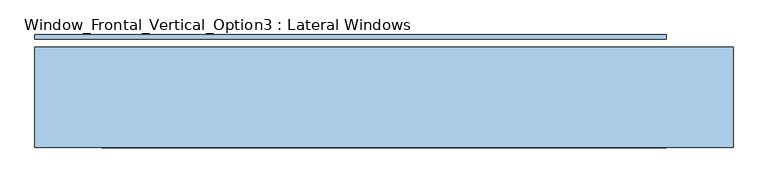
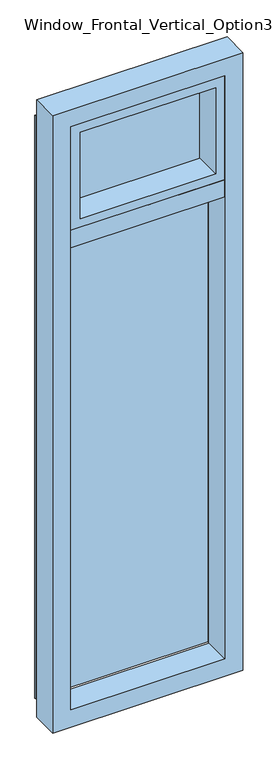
"""IFC4 building model written with IfcOpenShell, lengths in millimetres: window geometry, Window_Frontal_Vertical_Option3 : Lateral Windows."""

from ifc_helpers import new_model, si_unit, frame, origin, place, context, project, spatial, polyline, outline, extrude, source, transform, mapped, element, save


def window_frontal_vertical_option3_lateral_windows_03f2e7b4(model_context):
    return source(origin(), model_context, "Body", "SweptSolid", [
        extrude(outline(polyline([(4546.6, 529.336), (4546.6, -529.336), (914.4, -529.336), (914.4, 529.336), (4546.6, 529.336)]), holes=[polyline([(1016.0, 427.736), (1016.0, -427.736), (4445.0, -427.736), (4445.0, 427.736), (1016.0, 427.736)])]), frame((0.0, -76.2, 0.0), z_axis=(0.0, 1.0, 0.0), x_axis=(0.0, 0.0, 1.0)), (0.0, 0.0, 1.0), 152.4),
        extrude(outline(polyline([(-529.336, 95.25), (427.736, 95.25), (427.736, 88.9), (-529.336, 88.9), (-529.336, 95.25)])), frame((0.0, 0.0, 1016.0), z_axis=(0.0, 0.0, 1.0), x_axis=(1.0, 0.0, 0.0)), (0.0, 0.0, 1.0), 3429.0),
        extrude(outline(polyline([(427.736, -76.2), (-427.736, -76.2), (-427.736, 76.2), (427.736, 76.2), (427.736, -76.2)])), frame((0.0, 0.0, 3733.8), z_axis=(0.0, 0.0, 1.0), x_axis=(1.0, 0.0, 0.0)), (0.0, 0.0, 1.0), 101.6),
        extrude(outline(polyline([(3835.4, 427.736), (4445.0, 427.736), (4445.0, -427.736), (3835.4, -427.736), (3835.4, 427.736)]), holes=[polyline([(4394.2, -376.936), (4394.2, 376.936), (3886.2, 376.936), (3886.2, -376.936), (4394.2, -376.936)])]), frame((0.0, -76.2, 0.0), z_axis=(0.0, 1.0, 0.0), x_axis=(0.0, 0.0, 1.0)), (0.0, 0.0, 1.0), 152.4),
    ])


if __name__ == "__main__":
    model = new_model("IFC4")
    model_context = context("Model", 3, world=origin())
    ifc_project = project(units=[si_unit("LENGTHUNIT", "METRE", prefix="MILLI")], contexts=[model_context])
    site = spatial("IfcSite", under=ifc_project)
    building = spatial("IfcBuilding", under=site)
    placement = place(None, origin())
    window_frontal_vertical_option3_lateral_windows_shape = window_frontal_vertical_option3_lateral_windows_03f2e7b4(model_context)
    element("IfcWindow", 1, ObjectType="Window_Frontal_Vertical_Option3 : Lateral Windows", at=placement, inside=building, context=model_context, shape_type="MappedRepresentation", body=[
        mapped(window_frontal_vertical_option3_lateral_windows_shape, transform((0.0, 0.0, 0.0), x_axis=(1.0, 0.0, 0.0), y_axis=(0.0, 1.0, 0.0), z_axis=(0.0, 0.0, 1.0))),
    ])
    save(model, "model.ifc")
